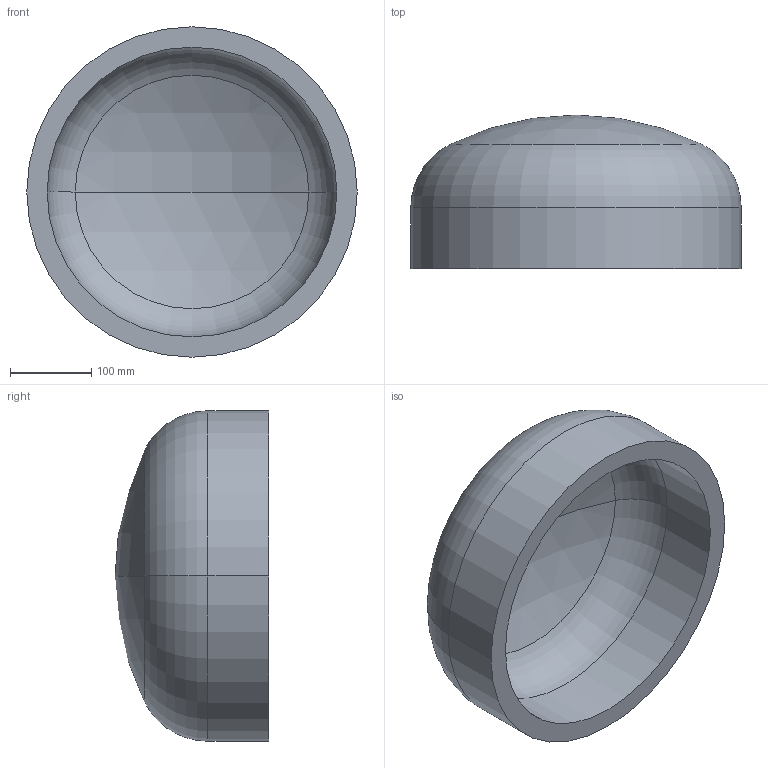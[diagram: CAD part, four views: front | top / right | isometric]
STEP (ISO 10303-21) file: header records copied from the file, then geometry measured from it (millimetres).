
FILE_DESCRIPTION (( 'STEP AP203' ), '1' );
FILE_NAME ('DIN 28013 Korbbogenform_-_Boden DIN 28013 - 406,4 x 75 - I - s=25.step', '2016-07-01T07:49:51', ( '' ), ( '' ), 'SwSTEP 2.0', 'SolidWorks 2013', '' );
FILE_SCHEMA (( 'CONFIG_CONTROL_DESIGN' ));
Length unit declared in the file: millimetre
Products named in the file (1): DIN 28013 Korbbogenform_-_Boden DIN 28013 - 406,4 x 75 - I - s=25
Bounding box: 406.4 x 189.06 x 406.4 mm (x, y, z)
Volume: 6391739.4 mm3; surface area: 542603.1 mm2
Topology: 1 solids, 1 shells, 13 faces, 24 edges, 14 vertices
Faces by surface type: torus 4, cylinder 4, sphere 4, plane 1
Entity records: 407 total; most frequent: DIRECTION 72, CARTESIAN_POINT 52, ORIENTED_EDGE 48, AXIS2_PLACEMENT_3D 34, EDGE_CURVE 24, CIRCLE 20, VERTEX_POINT 14, EDGE_LOOP 14
